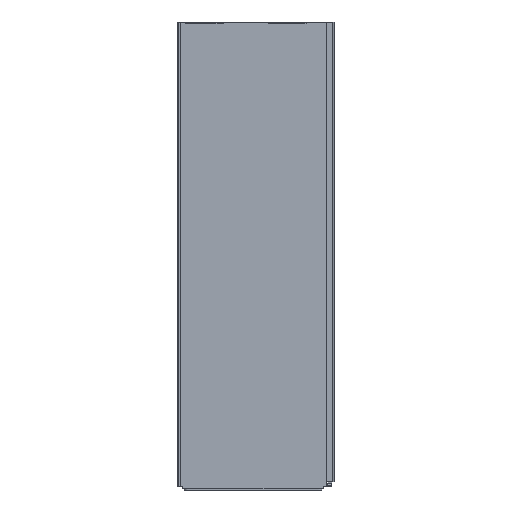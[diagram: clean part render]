
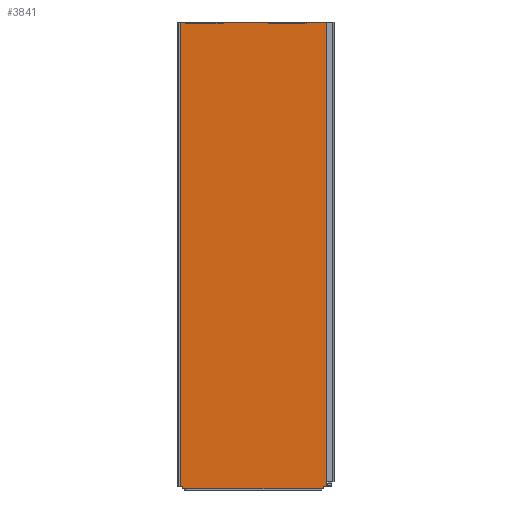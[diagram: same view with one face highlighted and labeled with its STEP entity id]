
A CAD part, left-side view. The second image highlights one B-rep face of the part: STEP entity #3841.
In plain terms, the highlighted planar face has unit normal (-1, 0, 0).
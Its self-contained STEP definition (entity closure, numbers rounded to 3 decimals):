
#115 = EDGE_CURVE ( 'NONE', #12234, #12902, #5658, .T. ) ;
#163 = DIRECTION ( 'NONE',  ( 0., -1., 0. ) ) ;
#211 = CARTESIAN_POINT ( 'NONE',  ( -0.8, 166.5, -540. ) ) ;
#219 = PLANE ( 'NONE',  #2389 ) ;
#338 = VECTOR ( 'NONE', #5395, 1000. ) ;
#769 = CARTESIAN_POINT ( 'NONE',  ( -0.8, -0.8, -538. ) ) ;
#837 = VERTEX_POINT ( 'NONE', #1754 ) ;
#1176 = LINE ( 'NONE', #6689, #13655 ) ;
#1563 = EDGE_CURVE ( 'NONE', #7549, #3883, #7598, .T. ) ;
#1754 = CARTESIAN_POINT ( 'NONE',  ( -0.8, -0.8, 0. ) ) ;
#2049 = DIRECTION ( 'NONE',  ( 0., 0., 1. ) ) ;
#2205 = CARTESIAN_POINT ( 'NONE',  ( -0.8, 3.5, -540. ) ) ;
#2389 = AXIS2_PLACEMENT_3D ( 'NONE', #4583, #3536, #7875 ) ;
#2452 = ORIENTED_EDGE ( 'NONE', *, *, #115, .F. ) ;
#2693 = DIRECTION ( 'NONE',  ( 0., -1., 0. ) ) ;
#2746 = CARTESIAN_POINT ( 'NONE',  ( -0.8, 171.7, -538. ) ) ;
#2928 = VECTOR ( 'NONE', #6651, 1000. ) ;
#2934 = DIRECTION ( 'NONE',  ( 0., 1., 0. ) ) ;
#3311 = EDGE_CURVE ( 'NONE', #11409, #837, #12766, .T. ) ;
#3328 = CARTESIAN_POINT ( 'NONE',  ( -0.8, 3.5, -538. ) ) ;
#3536 = DIRECTION ( 'NONE',  ( -1., 0., 0. ) ) ;
#3707 = VECTOR ( 'NONE', #4082, 1000. ) ;
#3725 = CARTESIAN_POINT ( 'NONE',  ( -0.8, 3.5, -540.8 ) ) ;
#3758 = LINE ( 'NONE', #12445, #9658 ) ;
#3841 = ADVANCED_FACE ( 'NONE', ( #5667 ), #219, .T. ) ;
#3883 = VERTEX_POINT ( 'NONE', #5873 ) ;
#4023 = LINE ( 'NONE', #12702, #11411 ) ;
#4082 = DIRECTION ( 'NONE',  ( 0., 0., 1. ) ) ;
#4185 = EDGE_LOOP ( 'NONE', ( #4851, #11339, #7765, #7303, #2452, #5368, #13752, #12396 ) ) ;
#4495 = EDGE_CURVE ( 'NONE', #8673, #12234, #4023, .T. ) ;
#4565 = LINE ( 'NONE', #12047, #2928 ) ;
#4583 = CARTESIAN_POINT ( 'NONE',  ( -0.8, 171.7, -538. ) ) ;
#4851 = ORIENTED_EDGE ( 'NONE', *, *, #3311, .T. ) ;
#5107 = EDGE_CURVE ( 'NONE', #6280, #11409, #1176, .T. ) ;
#5368 = ORIENTED_EDGE ( 'NONE', *, *, #4495, .F. ) ;
#5395 = DIRECTION ( 'NONE',  ( 0., 0., 1. ) ) ;
#5527 = DIRECTION ( 'NONE',  ( 0., 0., 1. ) ) ;
#5658 = LINE ( 'NONE', #211, #338 ) ;
#5667 = FACE_OUTER_BOUND ( 'NONE', #4185, .T. ) ;
#5873 = CARTESIAN_POINT ( 'NONE',  ( -0.8, 171.7, 0. ) ) ;
#6280 = VERTEX_POINT ( 'NONE', #3328 ) ;
#6651 = DIRECTION ( 'NONE',  ( 0., -1., 0. ) ) ;
#6689 = CARTESIAN_POINT ( 'NONE',  ( -0.8, 171.7, -538. ) ) ;
#7303 = ORIENTED_EDGE ( 'NONE', *, *, #12544, .T. ) ;
#7549 = VERTEX_POINT ( 'NONE', #2746 ) ;
#7598 = LINE ( 'NONE', #11176, #10900 ) ;
#7765 = ORIENTED_EDGE ( 'NONE', *, *, #1563, .F. ) ;
#7875 = DIRECTION ( 'NONE',  ( 0., -1., 0. ) ) ;
#8392 = VECTOR ( 'NONE', #2049, 1000. ) ;
#8673 = VERTEX_POINT ( 'NONE', #3725 ) ;
#9658 = VECTOR ( 'NONE', #2693, 1000. ) ;
#10900 = VECTOR ( 'NONE', #5527, 1000. ) ;
#10933 = EDGE_CURVE ( 'NONE', #3883, #837, #4565, .T. ) ;
#11176 = CARTESIAN_POINT ( 'NONE',  ( -0.8, 171.7, -538. ) ) ;
#11223 = CARTESIAN_POINT ( 'NONE',  ( -0.8, 166.5, -538. ) ) ;
#11245 = CARTESIAN_POINT ( 'NONE',  ( -0.8, -0.8, -538. ) ) ;
#11251 = EDGE_CURVE ( 'NONE', #8673, #6280, #14022, .T. ) ;
#11339 = ORIENTED_EDGE ( 'NONE', *, *, #10933, .F. ) ;
#11409 = VERTEX_POINT ( 'NONE', #11245 ) ;
#11411 = VECTOR ( 'NONE', #2934, 1000. ) ;
#12047 = CARTESIAN_POINT ( 'NONE',  ( -0.8, 171.7, 0. ) ) ;
#12234 = VERTEX_POINT ( 'NONE', #12599 ) ;
#12396 = ORIENTED_EDGE ( 'NONE', *, *, #5107, .T. ) ;
#12445 = CARTESIAN_POINT ( 'NONE',  ( -0.8, 171.7, -538. ) ) ;
#12544 = EDGE_CURVE ( 'NONE', #7549, #12902, #3758, .T. ) ;
#12599 = CARTESIAN_POINT ( 'NONE',  ( -0.8, 166.5, -540.8 ) ) ;
#12702 = CARTESIAN_POINT ( 'NONE',  ( -0.8, 3.5, -540.8 ) ) ;
#12766 = LINE ( 'NONE', #769, #3707 ) ;
#12902 = VERTEX_POINT ( 'NONE', #11223 ) ;
#13655 = VECTOR ( 'NONE', #163, 1000. ) ;
#13752 = ORIENTED_EDGE ( 'NONE', *, *, #11251, .T. ) ;
#14022 = LINE ( 'NONE', #2205, #8392 ) ;
